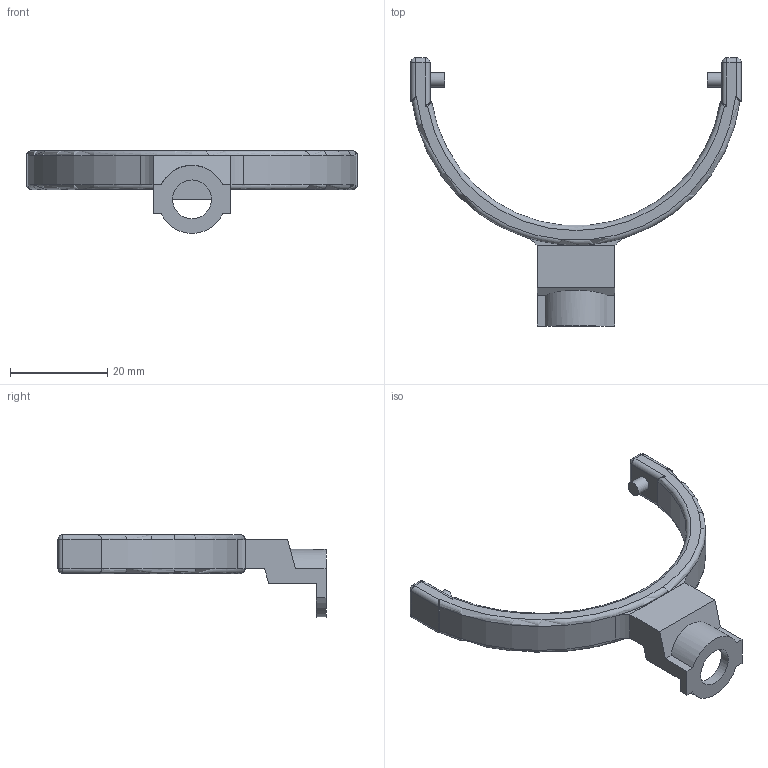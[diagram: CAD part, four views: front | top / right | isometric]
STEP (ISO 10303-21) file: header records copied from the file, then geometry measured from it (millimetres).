
FILE_DESCRIPTION(('STEP AP203'), '1');
FILE_NAME('栖闉罻', '', ('UNSPECIFIED'), ('UNSPECIFIED'), 'ASCON STEP Converter 1.6', 'ASCON Math Kernel', '');
FILE_SCHEMA(('CONFIG_CONTROL_DESIGN'));
Length unit declared in the file: millimetre
Assembly tree (2 placements, depth 2):
  (unnamed)
    (unnamed)
    (unnamed)
Bounding box: 68 x 55.11 x 16.97 mm (x, y, z)
Volume: 4979.1 mm3; surface area: 3829 mm2
Topology: 2 solids, 2 shells, 81 faces, 187 edges, 104 vertices
Faces by surface type: cylinder 35, plane 34, sphere 8, torus 4
Full cylindrical faces by diameter (mm): 3 x2, 8 x1
Entity records: 3130 total; most frequent: CARTESIAN_POINT 575, DIRECTION 380, ORIENTED_EDGE 352, EDGE_CURVE 176, AXIS2_PLACEMENT_3D 137, LINE 106, VECTOR 106, VERTEX_POINT 104
